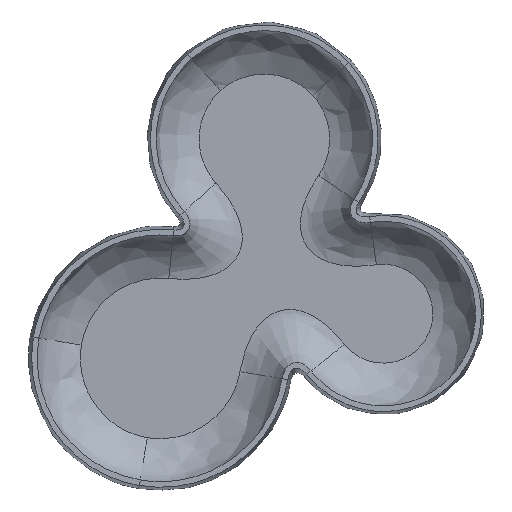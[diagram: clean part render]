
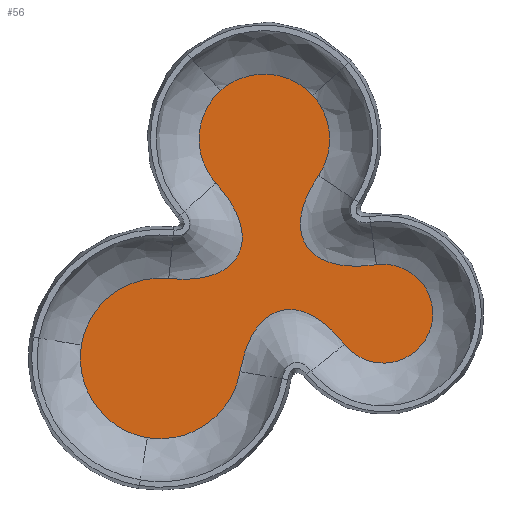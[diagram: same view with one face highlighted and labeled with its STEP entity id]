
A CAD part, top view. The second image highlights one B-rep face of the part: STEP entity #56.
In plain terms, the highlighted planar face has unit normal (0, 0, -1).
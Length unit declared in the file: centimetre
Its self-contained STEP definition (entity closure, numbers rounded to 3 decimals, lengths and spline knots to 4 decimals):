
#56=ADVANCED_FACE('',(#89),#480,.T.);
#89=FACE_OUTER_BOUND('',#122,.T.);
#122=EDGE_LOOP('',(#260,#261,#262,#263,#264,#265,#266,#267,#268,#269));
#260=ORIENTED_EDGE('',*,*,#343,.F.);
#261=ORIENTED_EDGE('',*,*,#344,.F.);
#262=ORIENTED_EDGE('',*,*,#345,.F.);
#263=ORIENTED_EDGE('',*,*,#346,.F.);
#264=ORIENTED_EDGE('',*,*,#347,.F.);
#265=ORIENTED_EDGE('',*,*,#348,.F.);
#266=ORIENTED_EDGE('',*,*,#349,.F.);
#267=ORIENTED_EDGE('',*,*,#350,.F.);
#268=ORIENTED_EDGE('',*,*,#351,.F.);
#269=ORIENTED_EDGE('',*,*,#352,.F.);
#343=EDGE_CURVE('',#465,#466,#426,.T.);
#344=EDGE_CURVE('',#464,#465,#427,.T.);
#345=EDGE_CURVE('',#470,#464,#428,.T.);
#346=EDGE_CURVE('',#453,#470,#429,.T.);
#347=EDGE_CURVE('',#452,#453,#430,.T.);
#348=EDGE_CURVE('',#455,#452,#431,.T.);
#349=EDGE_CURVE('',#457,#455,#432,.T.);
#350=EDGE_CURVE('',#459,#457,#433,.T.);
#351=EDGE_CURVE('',#461,#459,#434,.T.);
#352=EDGE_CURVE('',#466,#461,#435,.T.);
#426=B_SPLINE_CURVE_WITH_KNOTS('',3,(#7312,#7313,#7314,#7315,#7316,#7317,
#7318,#7319,#7320,#7321,#7322,#7323,#7324),.UNSPECIFIED.,.F.,.F.,(4,3,1,
1,1,3,4),(-11.5529,-11.5054,-8.8368,-6.1681,
-3.4995,-0.8309,0.),.UNSPECIFIED.);
#427=B_SPLINE_CURVE_WITH_KNOTS('',3,(#7325,#7326,#7327,#7328,#7329,#7330,
#7331),.UNSPECIFIED.,.F.,.F.,(4,1,1,1,4),(-9.3237,-6.9928,
-4.6619,-2.3309,0.),.UNSPECIFIED.);
#428=B_SPLINE_CURVE_WITH_KNOTS('',3,(#7332,#7333,#7334,#7335,#7336,#7337,
#7338),.UNSPECIFIED.,.F.,.F.,(4,1,1,1,4),(-9.3237,-6.9928,
-4.6619,-2.3309,0.),.UNSPECIFIED.);
#429=B_SPLINE_CURVE_WITH_KNOTS('',3,(#7339,#7340,#7341,#7342,#7343,#7344,
#7345,#7346,#7347,#7348,#7349,#7350,#7351),.UNSPECIFIED.,.F.,.F.,(4,1,1,
1,3,1,1,1,4),(-8.8553,-7.6123,-6.3692,-5.1262,
-3.8832,-2.9124,-1.9416,-0.9708,
0.),.UNSPECIFIED.);
#430=B_SPLINE_CURVE_WITH_KNOTS('',3,(#7352,#7353,#7354,#7355),
 .UNSPECIFIED.,.F.,.F.,(4,4),(-14.6639,0.),.UNSPECIFIED.);
#431=B_SPLINE_CURVE_WITH_KNOTS('',3,(#7356,#7357,#7358,#7359,#7360,#7361,
#7362),.UNSPECIFIED.,.F.,.F.,(4,1,1,1,4),(-7.5947,-5.6961,
-3.7974,-1.8987,0.),.UNSPECIFIED.);
#432=B_SPLINE_CURVE_WITH_KNOTS('',3,(#7363,#7364,#7365,#7366,#7367,#7368,
#7369),.UNSPECIFIED.,.F.,.F.,(4,1,1,1,4),(-7.5629,-5.6721,
-3.7814,-1.8907,0.),.UNSPECIFIED.);
#433=B_SPLINE_CURVE_WITH_KNOTS('',3,(#7370,#7371,#7372,#7373,#7374,#7375,
#7376),.UNSPECIFIED.,.F.,.F.,(4,1,1,1,4),(-6.3856,-4.7892,
-3.1928,-1.5964,0.),.UNSPECIFIED.);
#434=B_SPLINE_CURVE_WITH_KNOTS('',3,(#7377,#7378,#7379,#7380),
 .UNSPECIFIED.,.F.,.F.,(4,4),(-13.8326,0.),.UNSPECIFIED.);
#435=B_SPLINE_CURVE_WITH_KNOTS('',3,(#7381,#7382,#7383,#7384,#7385,#7386,
#7387,#7388,#7389,#7390,#7391,#7392,#7393,#7394,#7395,#7396,#7397,#7398,
#7399),.UNSPECIFIED.,.F.,.F.,(4,1,1,1,3,1,1,1,3,1,1,1,4),(-15.2661,
-14.3224,-13.3787,-12.435,-11.4913,
-10.0549,-8.6184,-7.182,-5.7456,
-4.3092,-2.8728,-1.4364,0.),.UNSPECIFIED.);
#452=VERTEX_POINT('',#5545);
#453=VERTEX_POINT('',#5546);
#455=VERTEX_POINT('',#5548);
#457=VERTEX_POINT('',#5550);
#459=VERTEX_POINT('',#5552);
#461=VERTEX_POINT('',#5554);
#464=VERTEX_POINT('',#5557);
#465=VERTEX_POINT('',#5558);
#466=VERTEX_POINT('',#5559);
#470=VERTEX_POINT('',#5563);
#480=PLANE('',#533);
#533=AXIS2_PLACEMENT_3D('',#5528,#538,$);
#538=DIRECTION('',(0.,0.,-1.));
#5528=CARTESIAN_POINT('',(374.1549,335.916,75.1284));
#5545=CARTESIAN_POINT('',(355.7722,357.2526,75.1284));
#5546=CARTESIAN_POINT('',(352.3425,350.2985,75.1284));
#5548=CARTESIAN_POINT('',(356.1066,363.9632,75.1284));
#5550=CARTESIAN_POINT('',(362.8174,363.6285,75.1284));
#5552=CARTESIAN_POINT('',(363.2366,357.7887,75.1284));
#5554=CARTESIAN_POINT('',(367.447,351.291,75.1284));
#5557=CARTESIAN_POINT('',(350.7787,338.7044,75.1284));
#5558=CARTESIAN_POINT('',(357.5173,343.51,75.1284));
#5559=CARTESIAN_POINT('',(365.1371,345.5013,75.1284));
#5563=CARTESIAN_POINT('',(345.9731,345.4433,75.1284));
#7312=CARTESIAN_POINT('',(357.5173,343.51,75.1284));
#7313=CARTESIAN_POINT('',(357.52,343.5257,75.1284));
#7314=CARTESIAN_POINT('',(357.5228,343.5413,75.1284));
#7315=CARTESIAN_POINT('',(357.5256,343.5568,75.1284));
#7316=CARTESIAN_POINT('',(357.745,344.7607,75.1284));
#7317=CARTESIAN_POINT('',(358.462,346.6948,75.1284));
#7318=CARTESIAN_POINT('',(360.154,348.1392,75.1284));
#7319=CARTESIAN_POINT('',(362.275,348.0728,75.1284));
#7320=CARTESIAN_POINT('',(363.8292,346.9654,75.1284));
#7321=CARTESIAN_POINT('',(364.5979,346.1331,75.1284));
#7322=CARTESIAN_POINT('',(364.7783,345.9379,75.1284));
#7323=CARTESIAN_POINT('',(364.9582,345.7274,75.1284));
#7324=CARTESIAN_POINT('',(365.1371,345.5013,75.1284));
#7325=CARTESIAN_POINT('',(350.7787,338.7044,75.1284));
#7326=CARTESIAN_POINT('',(351.4589,338.598,75.1284));
#7327=CARTESIAN_POINT('',(352.9674,338.6109,75.1284));
#7328=CARTESIAN_POINT('',(355.2284,339.5924,75.1284));
#7329=CARTESIAN_POINT('',(356.893,341.4102,75.1284));
#7330=CARTESIAN_POINT('',(357.3966,342.8323,75.1284));
#7331=CARTESIAN_POINT('',(357.5173,343.51,75.1284));
#7332=CARTESIAN_POINT('',(345.9731,345.4433,75.1284));
#7333=CARTESIAN_POINT('',(345.8667,344.7632,75.1284));
#7334=CARTESIAN_POINT('',(345.8796,343.2546,75.1284));
#7335=CARTESIAN_POINT('',(346.8611,340.9936,75.1284));
#7336=CARTESIAN_POINT('',(348.6789,339.3291,75.1284));
#7337=CARTESIAN_POINT('',(350.101,338.8254,75.1284));
#7338=CARTESIAN_POINT('',(350.7787,338.7044,75.1284));
#7339=CARTESIAN_POINT('',(352.3425,350.2985,75.1284));
#7340=CARTESIAN_POINT('',(351.972,350.3368,75.1284));
#7341=CARTESIAN_POINT('',(351.1947,350.3446,75.1284));
#7342=CARTESIAN_POINT('',(349.981,350.1046,75.1284));
#7343=CARTESIAN_POINT('',(348.8025,349.5908,75.1284));
#7344=CARTESIAN_POINT('',(348.1011,349.0767,75.1284));
#7345=CARTESIAN_POINT('',(347.7847,348.7856,75.1284));
#7346=CARTESIAN_POINT('',(347.5341,348.5554,75.1284));
#7347=CARTESIAN_POINT('',(347.0756,348.0526,75.1284));
#7348=CARTESIAN_POINT('',(346.54,347.2113,75.1284));
#7349=CARTESIAN_POINT('',(346.1663,346.3262,75.1284));
#7350=CARTESIAN_POINT('',(346.0217,345.7342,75.1284));
#7351=CARTESIAN_POINT('',(345.9731,345.4433,75.1284));
#7352=CARTESIAN_POINT('',(355.7722,357.2526,75.1284));
#7353=CARTESIAN_POINT('',(359.3836,353.2624,75.1284));
#7354=CARTESIAN_POINT('',(357.7004,349.7488,75.1284));
#7355=CARTESIAN_POINT('',(352.3425,350.2985,75.1284));
#7356=CARTESIAN_POINT('',(356.1066,363.9632,75.1284));
#7357=CARTESIAN_POINT('',(355.6924,363.5881,75.1284));
#7358=CARTESIAN_POINT('',(354.93,362.6261,75.1284));
#7359=CARTESIAN_POINT('',(354.407,360.6842,75.1284));
#7360=CARTESIAN_POINT('',(354.7342,358.6999,75.1284));
#7361=CARTESIAN_POINT('',(355.3971,357.6668,75.1284));
#7362=CARTESIAN_POINT('',(355.7722,357.2526,75.1284));
#7363=CARTESIAN_POINT('',(362.8174,363.6285,75.1284));
#7364=CARTESIAN_POINT('',(362.4369,364.0378,75.1284));
#7365=CARTESIAN_POINT('',(361.4689,364.7869,75.1284));
#7366=CARTESIAN_POINT('',(359.537,365.2987,75.1284));
#7367=CARTESIAN_POINT('',(357.5637,364.9817,75.1284));
#7368=CARTESIAN_POINT('',(356.526,364.3326,75.1284));
#7369=CARTESIAN_POINT('',(356.1066,363.9632,75.1284));
#7370=CARTESIAN_POINT('',(363.2366,357.7887,75.1284));
#7371=CARTESIAN_POINT('',(363.509,358.1928,75.1284));
#7372=CARTESIAN_POINT('',(363.9577,359.1344,75.1284));
#7373=CARTESIAN_POINT('',(364.1307,360.7877,75.1284));
#7374=CARTESIAN_POINT('',(363.7232,362.3994,75.1284));
#7375=CARTESIAN_POINT('',(363.1446,363.2672,75.1284));
#7376=CARTESIAN_POINT('',(362.8174,363.6285,75.1284));
#7377=CARTESIAN_POINT('',(367.447,351.291,75.1284));
#7378=CARTESIAN_POINT('',(362.3698,350.5667,75.1284));
#7379=CARTESIAN_POINT('',(360.374,353.5344,75.1284));
#7380=CARTESIAN_POINT('',(363.2366,357.7887,75.1284));
#7381=CARTESIAN_POINT('',(365.1371,345.5013,75.1284));
#7382=CARTESIAN_POINT('',(365.3219,345.2673,75.1284));
#7383=CARTESIAN_POINT('',(365.7644,344.8302,75.1284));
#7384=CARTESIAN_POINT('',(366.6063,344.354,75.1284));
#7385=CARTESIAN_POINT('',(367.5448,344.1198,75.1284));
#7386=CARTESIAN_POINT('',(368.1666,344.1324,75.1284));
#7387=CARTESIAN_POINT('',(368.4618,344.1745,75.1284));
#7388=CARTESIAN_POINT('',(368.8803,344.2343,75.1284));
#7389=CARTESIAN_POINT('',(369.7656,344.5148,75.1284));
#7390=CARTESIAN_POINT('',(370.9157,345.5108,75.1284));
#7391=CARTESIAN_POINT('',(371.5506,346.8935,75.1284));
#7392=CARTESIAN_POINT('',(371.5723,347.8219,75.1284));
#7393=CARTESIAN_POINT('',(371.5128,348.2404,75.1284));
#7394=CARTESIAN_POINT('',(371.453,348.6588,75.1284));
#7395=CARTESIAN_POINT('',(371.1726,349.5441,75.1284));
#7396=CARTESIAN_POINT('',(370.1765,350.6942,75.1284));
#7397=CARTESIAN_POINT('',(368.7938,351.3291,75.1284));
#7398=CARTESIAN_POINT('',(367.8654,351.3509,75.1284));
#7399=CARTESIAN_POINT('',(367.447,351.291,75.1284));
